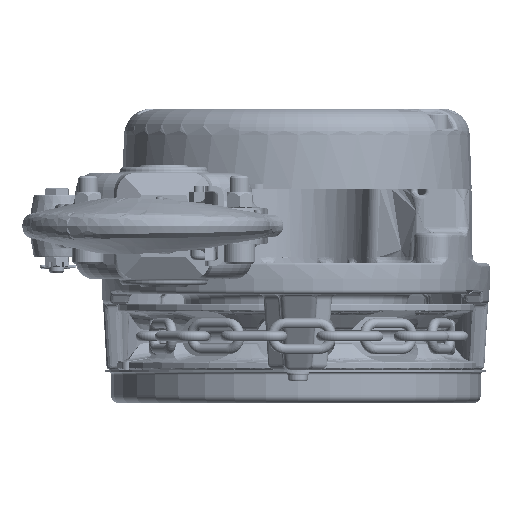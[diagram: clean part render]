
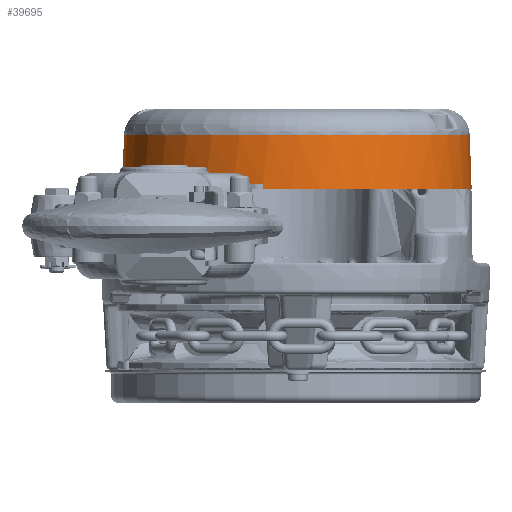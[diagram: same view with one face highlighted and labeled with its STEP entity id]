
A CAD part, front view. The second image highlights one B-rep face of the part: STEP entity #39695.
In plain terms, the highlighted conical face has half-angle 2 degrees and reference radius 90 mm.
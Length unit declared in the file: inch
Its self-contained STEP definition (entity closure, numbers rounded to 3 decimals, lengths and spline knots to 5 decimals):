
#1014 = CARTESIAN_POINT ( 'NONE',  ( -0.71288, -3.46775, 0.08703 ) ) ;
#4950 = FACE_OUTER_BOUND ( 'NONE', #24826, .T. ) ;
#5172 = CARTESIAN_POINT ( 'NONE',  ( -3.50483, 0., 1.10191 ) ) ;
#7532 = CARTESIAN_POINT ( 'NONE',  ( -0.72599, -3.46463, 0.09843 ) ) ;
#14376 = VERTEX_POINT ( 'NONE', #98409 ) ;
#14567 = DIRECTION ( 'NONE',  ( 0., 0., -1. ) ) ;
#14751 = CARTESIAN_POINT ( 'NONE',  ( 3.50483, 0., 1.10191 ) ) ;
#19743 = ORIENTED_EDGE ( 'NONE', *, *, #181176, .T. ) ;
#22486 = VERTEX_POINT ( 'NONE', #31242 ) ;
#23388 = CARTESIAN_POINT ( 'NONE',  ( -2.37831, -2.62227, 0.09055 ) ) ;
#24826 = EDGE_LOOP ( 'NONE', ( #19743, #124348, #146578, #30279, #189905, #241562, #174655, #112971, #68892, #231941 ) ) ;
#26795 = CARTESIAN_POINT ( 'NONE',  ( -0.71288, -3.46775, 0.08703 ) ) ;
#27169 = CARTESIAN_POINT ( 'NONE',  ( -0.71289, -3.46768, 0.08895 ) ) ;
#27504 = DIRECTION ( 'NONE',  ( -0.035, 0., -0.999 ) ) ;
#30279 = ORIENTED_EDGE ( 'NONE', *, *, #189723, .F. ) ;
#31242 = CARTESIAN_POINT ( 'NONE',  ( -2.38189, -2.62329, 0. ) ) ;
#33835 = VERTEX_POINT ( 'NONE', #14751 ) ;
#36629 = CARTESIAN_POINT ( 'NONE',  ( 0., 0., 1.10191 ) ) ;
#39695 = ADVANCED_FACE ( 'NONE', ( #4950 ), #238324, .T. ) ;
#40361 = LINE ( 'NONE', #207123, #143019 ) ;
#40777 = CARTESIAN_POINT ( 'NONE',  ( 0., 0., 0. ) ) ;
#45423 = CARTESIAN_POINT ( 'NONE',  ( -2.37885, -2.62194, 0.08703 ) ) ;
#46786 = CARTESIAN_POINT ( 'NONE',  ( -0.72972, -3.46384, 0.09843 ) ) ;
#48161 = AXIS2_PLACEMENT_3D ( 'NONE', #132081, #222853, #188499 ) ;
#52611 = DIRECTION ( 'NONE',  ( -1., 0., 0. ) ) ;
#59884 = CARTESIAN_POINT ( 'NONE',  ( -0.71254, -3.46989, 0.02901 ) ) ;
#59917 = CIRCLE ( 'NONE', #48161, 3.53987 ) ;
#67509 = CIRCLE ( 'NONE', #196665, 3.50483 ) ;
#68892 = ORIENTED_EDGE ( 'NONE', *, *, #154219, .T. ) ;
#68998 = AXIS2_PLACEMENT_3D ( 'NONE', #40777, #169527, #207556 ) ;
#69535 = DIRECTION ( 'NONE',  ( 1., 0., 0. ) ) ;
#75854 = CARTESIAN_POINT ( 'NONE',  ( -0.71271, -3.46882, 0.05802 ) ) ;
#82185 = EDGE_CURVE ( 'NONE', #235112, #22486, #217795, .T. ) ;
#83478 = CARTESIAN_POINT ( 'NONE',  ( -2.36705, -2.63207, 0.09843 ) ) ;
#85450 = CARTESIAN_POINT ( 'NONE',  ( -2.38189, -2.62329, 0. ) ) ;
#86342 = LINE ( 'NONE', #161101, #90637 ) ;
#87415 = CARTESIAN_POINT ( 'NONE',  ( -3.54331, 0., 0. ) ) ;
#90637 = VECTOR ( 'NONE', #27504, 39.37008 ) ;
#93944 = CARTESIAN_POINT ( 'NONE',  ( -0.71236, -3.47096, 0. ) ) ;
#98409 = CARTESIAN_POINT ( 'NONE',  ( -2.36705, -2.63207, 0.09843 ) ) ;
#99089 = B_SPLINE_CURVE_WITH_KNOTS ( 'NONE', 3,
 ( #46786, #7532, #214792, #231971, #230747, #137548, #27169, #212372 ),
 .UNSPECIFIED., .F., .F.,
 ( 4, 2, 2, 4 ),
 ( 0., 0.00029, 0.00043, 0.00057 ),
 .UNSPECIFIED. ) ;
#101431 = CARTESIAN_POINT ( 'NONE',  ( -2.37885, -2.62194, 0.08703 ) ) ;
#103365 = EDGE_CURVE ( 'NONE', #126986, #235112, #86342, .T. ) ;
#103647 = DIRECTION ( 'NONE',  ( 0., 0., 1. ) ) ;
#111751 = VERTEX_POINT ( 'NONE', #171466 ) ;
#112971 = ORIENTED_EDGE ( 'NONE', *, *, #173100, .T. ) ;
#121442 = CARTESIAN_POINT ( 'NONE',  ( -2.37678, -2.62351, 0.0935 ) ) ;
#124348 = ORIENTED_EDGE ( 'NONE', *, *, #103365, .T. ) ;
#126986 = VERTEX_POINT ( 'NONE', #5172 ) ;
#131105 = B_SPLINE_CURVE_WITH_KNOTS ( 'NONE', 3,
 ( #45423, #136175, #23388, #121442, #210998, #155793, #234218, #83478 ),
 .UNSPECIFIED., .F., .F.,
 ( 4, 2, 2, 4 ),
 ( 0., 0.00013, 0.00027, 0.00054 ),
 .UNSPECIFIED. ) ;
#132081 = CARTESIAN_POINT ( 'NONE',  ( 0., 0., 0.09843 ) ) ;
#136175 = CARTESIAN_POINT ( 'NONE',  ( -2.37879, -2.62191, 0.08882 ) ) ;
#137548 = CARTESIAN_POINT ( 'NONE',  ( -0.71363, -3.46746, 0.09079 ) ) ;
#142819 = DIRECTION ( 'NONE',  ( 1., 0., 0. ) ) ;
#143019 = VECTOR ( 'NONE', #170300, 39.37008 ) ;
#146578 = ORIENTED_EDGE ( 'NONE', *, *, #82185, .T. ) ;
#150593 = EDGE_CURVE ( 'NONE', #33835, #111751, #40361, .T. ) ;
#154219 = EDGE_CURVE ( 'NONE', #240808, #111751, #159434, .T. ) ;
#155793 = CARTESIAN_POINT ( 'NONE',  ( -2.37235, -2.62733, 0.09758 ) ) ;
#158992 = CARTESIAN_POINT ( 'NONE',  ( -2.37986, -2.62239, 0.05802 ) ) ;
#159434 = CIRCLE ( 'NONE', #163450, 3.54331 ) ;
#161101 = CARTESIAN_POINT ( 'NONE',  ( -3.54331, 0., 0. ) ) ;
#163450 = AXIS2_PLACEMENT_3D ( 'NONE', #237209, #103647, #142819 ) ;
#169527 = DIRECTION ( 'NONE',  ( 0., 0., 1. ) ) ;
#170300 = DIRECTION ( 'NONE',  ( 0.035, 0., -0.999 ) ) ;
#171466 = CARTESIAN_POINT ( 'NONE',  ( 3.54331, 0., 0. ) ) ;
#173100 = EDGE_CURVE ( 'NONE', #186043, #240808, #209574, .T. ) ;
#174655 = ORIENTED_EDGE ( 'NONE', *, *, #202183, .T. ) ;
#181176 = EDGE_CURVE ( 'NONE', #33835, #126986, #67509, .T. ) ;
#185818 = VERTEX_POINT ( 'NONE', #216261 ) ;
#186043 = VERTEX_POINT ( 'NONE', #26795 ) ;
#188499 = DIRECTION ( 'NONE',  ( -1., 0., 0. ) ) ;
#189723 = EDGE_CURVE ( 'NONE', #185818, #22486, #204578, .T. ) ;
#189905 = ORIENTED_EDGE ( 'NONE', *, *, #190439, .T. ) ;
#190439 = EDGE_CURVE ( 'NONE', #185818, #14376, #131105, .T. ) ;
#194959 = CARTESIAN_POINT ( 'NONE',  ( -0.72972, -3.46384, 0.09843 ) ) ;
#195826 = CARTESIAN_POINT ( 'NONE',  ( -2.38088, -2.62284, 0.02901 ) ) ;
#196665 = AXIS2_PLACEMENT_3D ( 'NONE', #36629, #14567, #52611 ) ;
#202183 = EDGE_CURVE ( 'NONE', #205757, #186043, #99089, .T. ) ;
#204578 = B_SPLINE_CURVE_WITH_KNOTS ( 'NONE', 3,
 ( #101431, #158992, #195826, #85450 ),
 .UNSPECIFIED., .F., .F.,
 ( 4, 4 ),
 ( 0.00029, 0.0025 ),
 .UNSPECIFIED. ) ;
#205466 = EDGE_CURVE ( 'NONE', #205757, #14376, #59917, .T. ) ;
#205757 = VERTEX_POINT ( 'NONE', #194959 ) ;
#207123 = CARTESIAN_POINT ( 'NONE',  ( 3.54331, 0., 0. ) ) ;
#207556 = DIRECTION ( 'NONE',  ( 1., 0., 0. ) ) ;
#209574 = B_SPLINE_CURVE_WITH_KNOTS ( 'NONE', 3,
 ( #1014, #75854, #59884, #225404 ),
 .UNSPECIFIED., .F., .F.,
 ( 4, 4 ),
 ( 0.00029, 0.0025 ),
 .UNSPECIFIED. ) ;
#210998 = CARTESIAN_POINT ( 'NONE',  ( -2.37577, -2.62437, 0.09472 ) ) ;
#212372 = CARTESIAN_POINT ( 'NONE',  ( -0.71288, -3.46775, 0.08703 ) ) ;
#213387 = DIRECTION ( 'NONE',  ( 0., 0., -1. ) ) ;
#214792 = CARTESIAN_POINT ( 'NONE',  ( -0.72229, -3.46543, 0.09766 ) ) ;
#216261 = CARTESIAN_POINT ( 'NONE',  ( -2.37885, -2.62194, 0.08703 ) ) ;
#217795 = CIRCLE ( 'NONE', #68998, 3.54331 ) ;
#222853 = DIRECTION ( 'NONE',  ( 0., 0., -1. ) ) ;
#225404 = CARTESIAN_POINT ( 'NONE',  ( -0.71236, -3.47096, 0. ) ) ;
#229353 = CARTESIAN_POINT ( 'NONE',  ( 0., 0., 0. ) ) ;
#230747 = CARTESIAN_POINT ( 'NONE',  ( -0.71591, -3.46689, 0.09379 ) ) ;
#231941 = ORIENTED_EDGE ( 'NONE', *, *, #150593, .F. ) ;
#231971 = CARTESIAN_POINT ( 'NONE',  ( -0.71742, -3.46653, 0.09496 ) ) ;
#234218 = CARTESIAN_POINT ( 'NONE',  ( -2.3697, -2.62968, 0.09843 ) ) ;
#234491 = AXIS2_PLACEMENT_3D ( 'NONE', #229353, #213387, #69535 ) ;
#235112 = VERTEX_POINT ( 'NONE', #87415 ) ;
#237209 = CARTESIAN_POINT ( 'NONE',  ( 0., 0., 0. ) ) ;
#238324 = CONICAL_SURFACE ( 'NONE', #234491, 3.54331, 0.035 ) ;
#240808 = VERTEX_POINT ( 'NONE', #93944 ) ;
#241562 = ORIENTED_EDGE ( 'NONE', *, *, #205466, .F. ) ;
